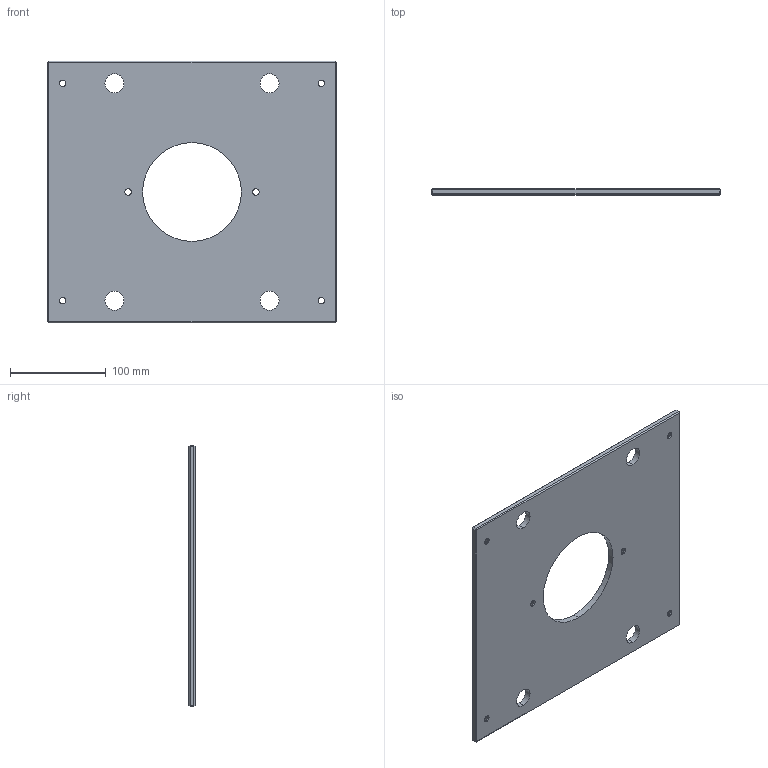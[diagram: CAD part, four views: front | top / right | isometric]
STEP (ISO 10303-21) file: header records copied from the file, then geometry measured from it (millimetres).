
FILE_DESCRIPTION (( 'STEP AP214' ), '1' );
FILE_NAME ('ME-0619-CH-1112.STEP', '2020-02-10T13:21:31', ( '' ), ( '' ), 'SwSTEP 2.0', 'SolidWorks 2018', '' );
FILE_SCHEMA (( 'AUTOMOTIVE_DESIGN' ));
Length unit declared in the file: inch
Products named in the file (1): ME-0619-CH-1112
Bounding box: 301.62 x 6.35 x 273.05 mm (x, y, z)
Volume: 457436.3 mm3; surface area: 154962.1 mm2
Topology: 1 solids, 1 shells, 60 faces, 138 edges, 80 vertices
Faces by surface type: plane 26, cylinder 22, cone 12
Entity records: 1754 total; most frequent: DIRECTION 316, CARTESIAN_POINT 279, ORIENTED_EDGE 276, EDGE_CURVE 138, AXIS2_PLACEMENT_3D 117, LINE 82, EDGE_LOOP 82, VECTOR 82
